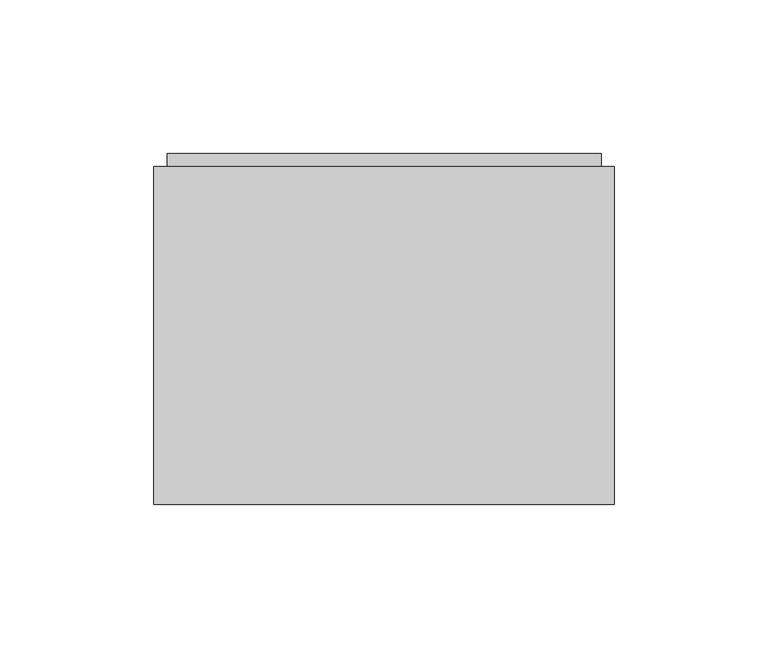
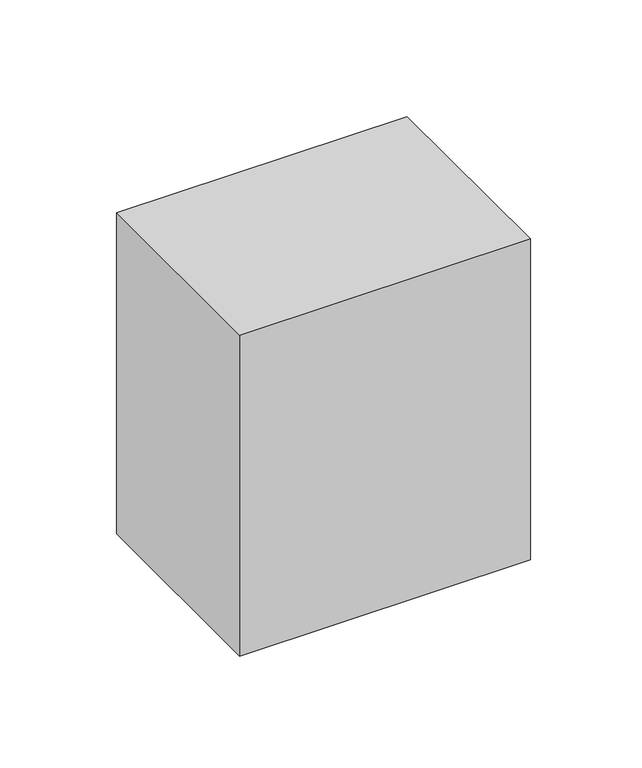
"""IFC4 building model written with IfcOpenShell, lengths in millimetres: valve geometry, AI_Acc canalisation_Calculateur d'énergie : Commande murale Clim."""

from ifc_helpers import new_model, si_unit, frame, origin, place, context, project, spatial, polyline, outline, extrude, source, transform, mapped, element, save


def valve_f3d73a9d(model_context):
    return source(origin(), model_context, "Body", "SweptSolid", [
        extrude(outline(polyline([(75.0, 110.0), (75.0, 0.0), (-75.0, 0.0), (-75.0, 110.0), (75.0, 110.0)])), frame((0.0, 0.0, -87.5), z_axis=(0.0, 0.0, 1.0), x_axis=(1.0, 0.0, 0.0)), (0.0, 0.0, 1.0), 175.0),
        extrude(outline(polyline([(70.7807261, 114.3129457), (70.7807261, 110.0), (-70.625, 110.0), (-70.625, 114.3129457), (70.7807261, 114.3129457)])), frame((0.0, 0.0, -1.2548348), z_axis=(0.0, 0.0, 1.0), x_axis=(1.0, 0.0, 0.0)), (0.0, 0.0, 1.0), 76.3819046),
        extrude(outline(polyline([(-59.7869555, 114.3129457), (-59.7869555, 110.0), (-70.625, 110.0), (-70.625, 114.3129457), (-59.7869555, 114.3129457)])), frame((0.0, 0.0, -29.228591), z_axis=(0.0, 0.0, 1.0), x_axis=(1.0, 0.0, 0.0)), (0.0, 0.0, 1.0), 12.7607885),
        extrude(outline(polyline([(5.4190223, 114.3129457), (5.4190223, 110.0), (-5.4190223, 110.0), (-5.4190223, 114.3129457), (5.4190223, 114.3129457)])), frame((0.0, 0.0, -29.228591), z_axis=(0.0, 0.0, 1.0), x_axis=(1.0, 0.0, 0.0)), (0.0, 0.0, 1.0), 12.7607885),
        extrude(outline(polyline([(59.7869555, 114.3129457), (70.625, 114.3129457), (70.625, 110.0), (59.7869555, 110.0), (59.7869555, 114.3129457)])), frame((0.0, 0.0, -29.228591), z_axis=(0.0, 0.0, 1.0), x_axis=(1.0, 0.0, 0.0)), (0.0, 0.0, 1.0), 12.7607885),
        extrude(outline(polyline([(40.4190223, 114.3129457), (40.4190223, 110.0), (29.5809777, 110.0), (29.5809777, 114.3129457), (40.4190223, 114.3129457)])), frame((0.0, 0.0, -29.228591), z_axis=(0.0, 0.0, 1.0), x_axis=(1.0, 0.0, 0.0)), (0.0, 0.0, 1.0), 12.7607885),
        extrude(outline(polyline([(-40.4190223, 114.3129457), (-29.5809777, 114.3129457), (-29.5809777, 110.0), (-40.4190223, 110.0), (-40.4190223, 114.3129457)])), frame((0.0, 0.0, -29.228591), z_axis=(0.0, 0.0, 1.0), x_axis=(1.0, 0.0, 0.0)), (0.0, 0.0, 1.0), 12.7607885),
    ])


if __name__ == "__main__":
    model = new_model("IFC4")
    model_context = context("Model", 3, world=origin())
    ifc_project = project(units=[si_unit("LENGTHUNIT", "METRE", prefix="MILLI")], contexts=[model_context])
    site = spatial("IfcSite", under=ifc_project)
    building = spatial("IfcBuilding", under=site)
    placement = place(None, origin())
    valve_shape = valve_f3d73a9d(model_context)
    element("IfcValve", 1, ObjectType="AI_Acc canalisation_Calculateur d'énergie : Commande murale Clim", at=placement, inside=building, context=model_context, shape_type="MappedRepresentation", body=[
        mapped(valve_shape, transform((0.0, 0.0, 0.0), x_axis=(1.0, 0.0, 0.0), y_axis=(0.0, 1.0, 0.0), z_axis=(0.0, 0.0, 1.0))),
    ])
    save(model, "model.ifc")
